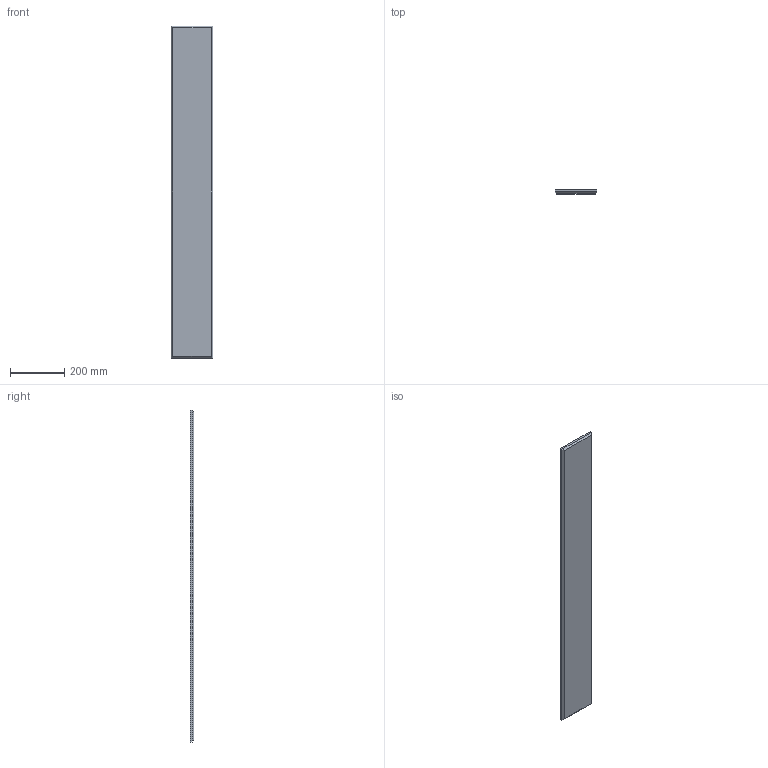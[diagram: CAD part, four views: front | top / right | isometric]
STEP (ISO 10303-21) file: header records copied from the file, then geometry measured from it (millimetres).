
FILE_DESCRIPTION(/* description */ (''),/* implementation_level */ '2;1');
FILE_NAME(/* name */ 'PET PLANQ_Beveled_6x48',/* time_stamp */ '2024-10-31T13:55:33-05:00',/* author */ (''),/* organization */ (''),/* preprocessor_version */ 'ST-DEVELOPER v19.2',/* originating_system */ 'Rhino 8.4',/* authorisation */ '');
FILE_SCHEMA (('CONFIG_CONTROL_DESIGN'));
Length unit declared in the file: inch
Products named in the file (1): Document
Bounding box: 152.4 x 12.7 x 1219.2 mm (x, y, z)
Volume: 2304772.3 mm3; surface area: 396180 mm2
Topology: 1 solids, 1 shells, 10 faces, 20 edges, 12 vertices
Faces by surface type: plane 10
Entity records: 310 total; most frequent: CARTESIAN_POINT 64, ORIENTED_EDGE 40, EDGE_CURVE 20, B_SPLINE_CURVE_WITH_KNOTS 20, DIRECTION 14, VERTEX_POINT 12, AXIS2_PLACEMENT_3D 12, ADVANCED_FACE 10
